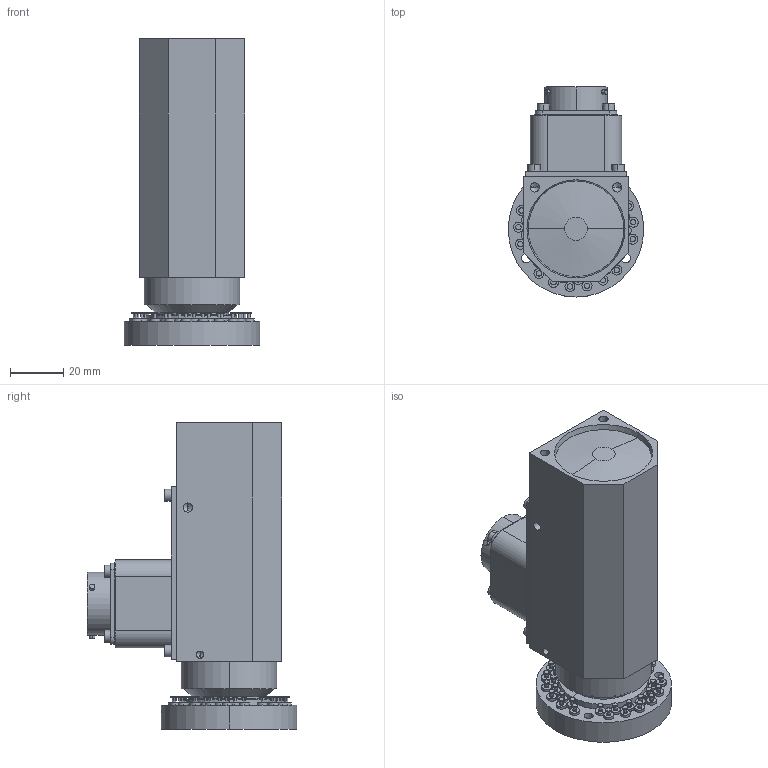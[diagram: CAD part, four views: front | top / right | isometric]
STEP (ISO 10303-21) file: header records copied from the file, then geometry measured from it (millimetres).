
FILE_DESCRIPTION (( 'STEP AP203' ), '1' );
FILE_NAME ('1007809.STEP', '2017-05-30T13:36:08', ( '' ), ( '' ), 'SwSTEP 2.0', 'SolidWorks 2014', '' );
FILE_SCHEMA (( 'CONFIG_CONTROL_DESIGN' ));
Length unit declared in the file: inch
Products named in the file (1): 1007809
Bounding box: 50.77 x 78.63 x 114.81 mm (x, y, z)
Volume: 191189.5 mm3; surface area: 29159.1 mm2
Topology: 1 solids, 1 shells, 818 faces, 1883 edges, 1232 vertices
Faces by surface type: cylinder 486, plane 244, sphere 57, cone 20, torus 11
Entity records: 22380 total; most frequent: DIRECTION 4283, CARTESIAN_POINT 3841, ORIENTED_EDGE 3408, AXIS2_PLACEMENT_3D 1786, EDGE_CURVE 1704, VERTEX_POINT 1122, EDGE_LOOP 1058, CIRCLE 967
